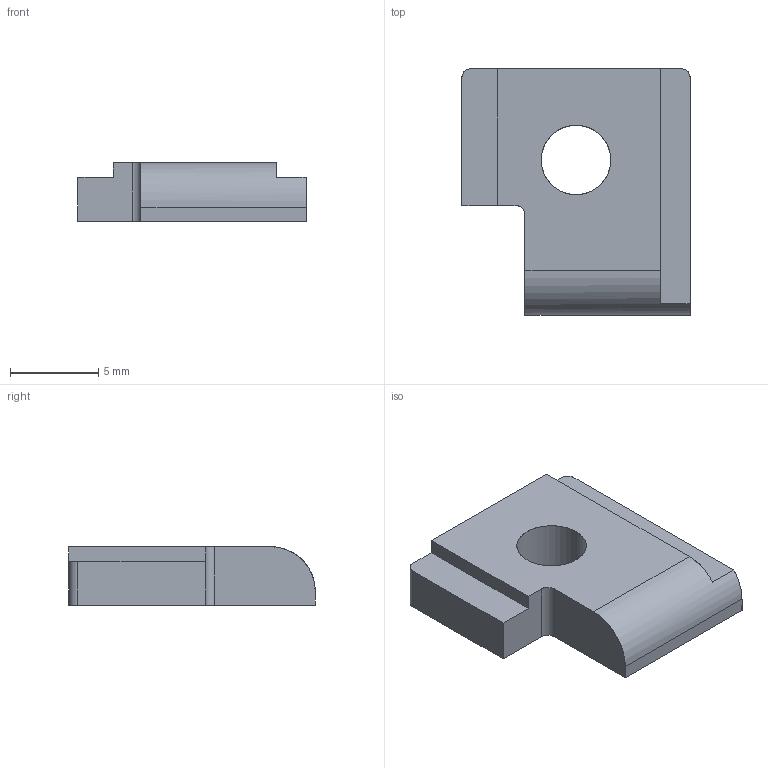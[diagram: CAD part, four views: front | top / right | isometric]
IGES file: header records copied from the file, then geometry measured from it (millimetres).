
Start section: SolidWorks IGES file using analytic representation for surfaces
Global section: file name: \\PSSILO\catalogs\CONTENTCENTRAL\FIRING PIN STOP\Cache\B9696D10-D1AE-4FD5-BCFD-FA1FDFD9BF5E.IGS; native system: SolidWorks 2009; preprocessor: SolidWorks 2009; author: partstream; date: 090716.113639; units: inch
Bounding box: 12.95 x 14 x 3.33 mm (x, y, z)
Surface area: 494 mm2 (no closed solid volume)
Topology: 0 solids, 0 shells, 18 faces, 187 edges, 187 vertices
Faces by surface type: bspline 12, revolution 6
